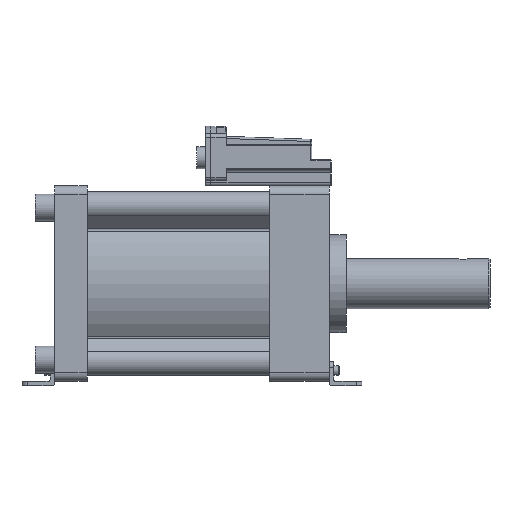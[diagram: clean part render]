
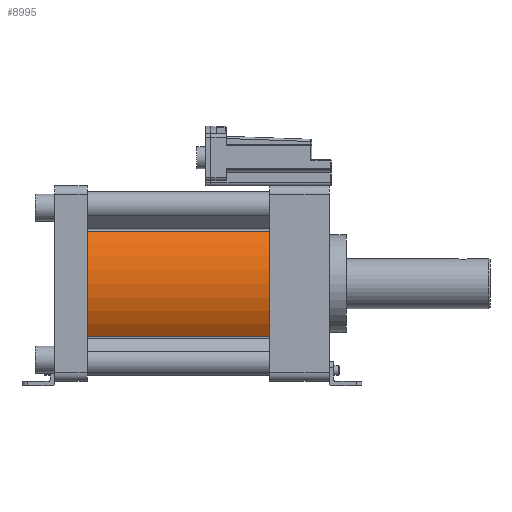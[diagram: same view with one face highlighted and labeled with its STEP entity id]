
A CAD part, left-side view. The second image highlights one B-rep face of the part: STEP entity #8995.
In plain terms, the highlighted cylindrical face has radius 84 mm (diameter 168 mm), a partial arc.
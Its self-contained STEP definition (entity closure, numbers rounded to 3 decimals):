
#59 = CARTESIAN_POINT ( 'NONE',  ( -68.704, -54., -138.33 ) ) ;
#520 = CYLINDRICAL_SURFACE ( 'NONE', #10374, 84. ) ;
#596 = ORIENTED_EDGE ( 'NONE', *, *, #2107, .T. ) ;
#636 = DIRECTION ( 'NONE',  ( 0., -1., 0. ) ) ;
#1614 = CARTESIAN_POINT ( 'NONE',  ( 0., 353.002, -90. ) ) ;
#2107 = EDGE_CURVE ( 'NONE', #2531, #5514, #12918, .T. ) ;
#2531 = VERTEX_POINT ( 'NONE', #4141 ) ;
#2608 = VECTOR ( 'NONE', #10156, 1000. ) ;
#2888 = CARTESIAN_POINT ( 'NONE',  ( -68.704, 114., -41.67 ) ) ;
#3980 = ORIENTED_EDGE ( 'NONE', *, *, #6669, .F. ) ;
#4015 = CIRCLE ( 'NONE', #6085, 84. ) ;
#4141 = CARTESIAN_POINT ( 'NONE',  ( -68.704, 114., -138.33 ) ) ;
#4492 = DIRECTION ( 'NONE',  ( 0., -1., 0. ) ) ;
#4552 = CARTESIAN_POINT ( 'NONE',  ( 0., 114., -90. ) ) ;
#4784 = CIRCLE ( 'NONE', #8405, 84. ) ;
#5514 = VERTEX_POINT ( 'NONE', #59 ) ;
#5586 = EDGE_CURVE ( 'NONE', #5514, #8913, #4015, .T. ) ;
#5597 = DIRECTION ( 'NONE',  ( 0., 0., 1. ) ) ;
#5862 = DIRECTION ( 'NONE',  ( 0., 1., 0. ) ) ;
#6085 = AXIS2_PLACEMENT_3D ( 'NONE', #11738, #5862, #12729 ) ;
#6317 = FACE_OUTER_BOUND ( 'NONE', #9166, .T. ) ;
#6621 = LINE ( 'NONE', #9460, #9526 ) ;
#6655 = CARTESIAN_POINT ( 'NONE',  ( -68.704, -54., -41.67 ) ) ;
#6669 = EDGE_CURVE ( 'NONE', #2531, #10245, #4784, .T. ) ;
#7312 = ORIENTED_EDGE ( 'NONE', *, *, #9369, .F. ) ;
#7781 = DIRECTION ( 'NONE',  ( 0., 0., -1. ) ) ;
#8405 = AXIS2_PLACEMENT_3D ( 'NONE', #4552, #11492, #5597 ) ;
#8913 = VERTEX_POINT ( 'NONE', #6655 ) ;
#8995 = ADVANCED_FACE ( 'NONE', ( #6317 ), #520, .T. ) ;
#9166 = EDGE_LOOP ( 'NONE', ( #3980, #596, #10377, #7312 ) ) ;
#9369 = EDGE_CURVE ( 'NONE', #10245, #8913, #6621, .T. ) ;
#9460 = CARTESIAN_POINT ( 'NONE',  ( -68.704, 353.002, -41.67 ) ) ;
#9526 = VECTOR ( 'NONE', #4492, 1000. ) ;
#10121 = CARTESIAN_POINT ( 'NONE',  ( -68.704, 353.002, -138.33 ) ) ;
#10156 = DIRECTION ( 'NONE',  ( 0., -1., 0. ) ) ;
#10245 = VERTEX_POINT ( 'NONE', #2888 ) ;
#10374 = AXIS2_PLACEMENT_3D ( 'NONE', #1614, #636, #7781 ) ;
#10377 = ORIENTED_EDGE ( 'NONE', *, *, #5586, .T. ) ;
#11492 = DIRECTION ( 'NONE',  ( 0., 1., 0. ) ) ;
#11738 = CARTESIAN_POINT ( 'NONE',  ( 0., -54., -90. ) ) ;
#12729 = DIRECTION ( 'NONE',  ( 0., 0., 1. ) ) ;
#12918 = LINE ( 'NONE', #10121, #2608 ) ;
